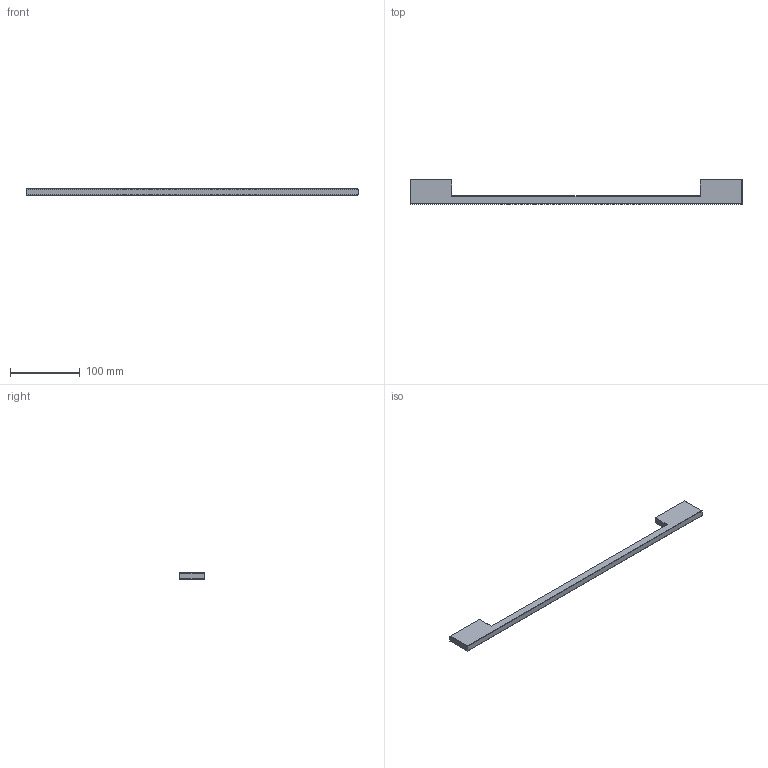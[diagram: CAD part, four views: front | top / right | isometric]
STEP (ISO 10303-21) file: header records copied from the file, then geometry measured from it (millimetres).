
FILE_DESCRIPTION( ( '' ), '1' );
FILE_NAME( 'D:/1.AUTOCAD EXPORT/Group 10/sheet_10_1/DONE/Sachin_1/9995588.stp', '2013-10-29T10:03:33', ( '' ), ( '' ), ' ', ' ', ' ' );
FILE_SCHEMA( ( 'CONFIG_CONTROL_DESIGN' ) );
Length unit declared in the file: millimetre
Products named in the file (1): 1
Bounding box: 476 x 35 x 9 mm (x, y, z)
Volume: 74822.9 mm3; surface area: 25950.3 mm2
Topology: 1 solids, 1 shells, 26 faces, 62 edges, 40 vertices
Faces by surface type: cylinder 15, plane 11
Entity records: 828 total; most frequent: CARTESIAN_POINT 165, DIRECTION 134, ORIENTED_EDGE 124, EDGE_CURVE 62, AXIS2_PLACEMENT_3D 49, VERTEX_POINT 40, LINE 36, VECTOR 36
